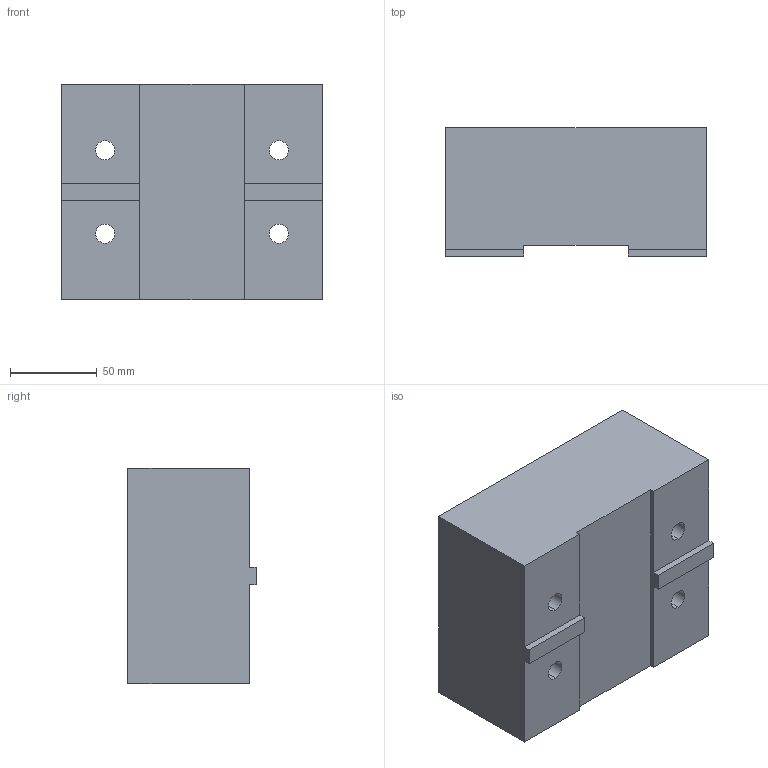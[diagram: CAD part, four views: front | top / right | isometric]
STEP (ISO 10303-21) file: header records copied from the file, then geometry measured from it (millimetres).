
FILE_DESCRIPTION (( 'STEP AP203' ), '1' );
FILE_NAME ('05-0163.STEP', '2021-09-14T23:05:39', ( '' ), ( '' ), 'SwSTEP 2.0', 'SolidWorks 2020', '' );
FILE_SCHEMA (( 'CONFIG_CONTROL_DESIGN' ));
Length unit declared in the file: millimetre
Products named in the file (1): 05-0163
Bounding box: 150 x 73.8 x 124 mm (x, y, z)
Volume: 1221859.9 mm3; surface area: 90906.2 mm2
Topology: 1 solids, 1 shells, 38 faces, 96 edges, 64 vertices
Faces by surface type: plane 22, cylinder 16
Entity records: 1245 total; most frequent: DIRECTION 206, CARTESIAN_POINT 199, ORIENTED_EDGE 192, EDGE_CURVE 96, AXIS2_PLACEMENT_3D 71, VERTEX_POINT 64, VECTOR 64, LINE 64
